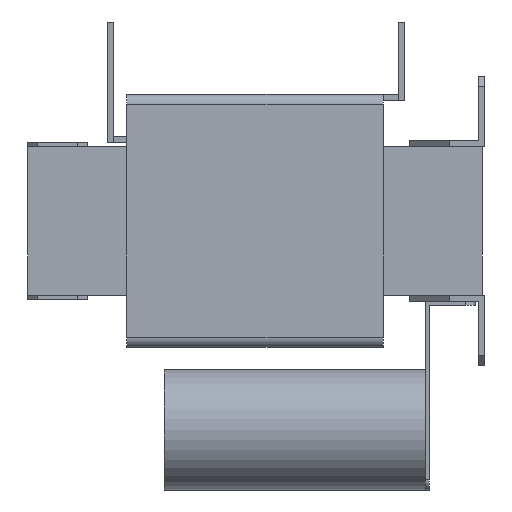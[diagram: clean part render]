
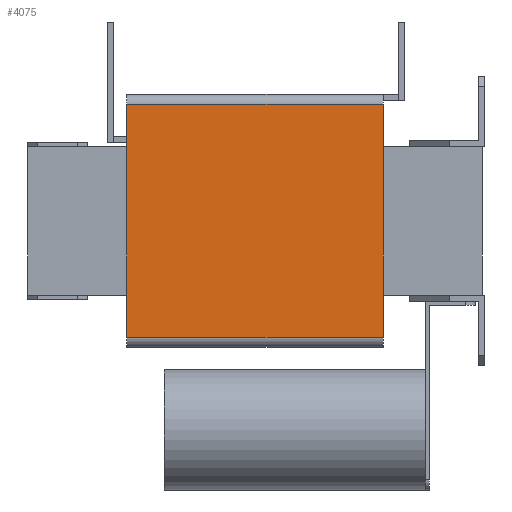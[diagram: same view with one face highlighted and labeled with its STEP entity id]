
A CAD part, left-side view. The second image highlights one B-rep face of the part: STEP entity #4075.
In plain terms, the highlighted planar face has unit normal (-1, 0, 0).
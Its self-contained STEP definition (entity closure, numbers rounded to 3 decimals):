
#359=FACE_OUTER_BOUND('',#611,.T.);
#611=EDGE_LOOP('',(#3135,#3136,#3137,#3138));
#957=LINE('',#6208,#1419);
#962=LINE('',#6227,#1424);
#966=LINE('',#6241,#1428);
#969=LINE('',#6247,#1431);
#1419=VECTOR('',#5042,10.);
#1424=VECTOR('',#5059,10.);
#1428=VECTOR('',#5071,10.);
#1431=VECTOR('',#5080,10.);
#1857=VERTEX_POINT('',#6206);
#1858=VERTEX_POINT('',#6207);
#1866=VERTEX_POINT('',#6225);
#1872=VERTEX_POINT('',#6239);
#2309=EDGE_CURVE('',#1857,#1858,#957,.T.);
#2319=EDGE_CURVE('',#1866,#1857,#962,.T.);
#2326=EDGE_CURVE('',#1866,#1872,#966,.T.);
#2329=EDGE_CURVE('',#1858,#1872,#969,.T.);
#3135=ORIENTED_EDGE('',*,*,#2319,.F.);
#3136=ORIENTED_EDGE('',*,*,#2326,.T.);
#3137=ORIENTED_EDGE('',*,*,#2329,.F.);
#3138=ORIENTED_EDGE('',*,*,#2309,.F.);
#3865=PLANE('',#4412);
#4075=ADVANCED_FACE('',(#359),#3865,.T.);
#4412=AXIS2_PLACEMENT_3D('',#6253,#5088,#5089);
#5042=DIRECTION('',(0.,0.,1.));
#5059=DIRECTION('',(0.,1.,0.));
#5071=DIRECTION('',(0.,0.,1.));
#5080=DIRECTION('',(0.,-1.,0.));
#5088=DIRECTION('center_axis',(-1.,0.,0.));
#5089=DIRECTION('ref_axis',(0.,0.,1.));
#6206=CARTESIAN_POINT('',(-232.,356.,-116.));
#6207=CARTESIAN_POINT('',(-232.,356.,116.));
#6208=CARTESIAN_POINT('',(-232.,356.,-116.));
#6225=CARTESIAN_POINT('',(-232.,101.,-116.));
#6227=CARTESIAN_POINT('',(-232.,101.,-116.));
#6239=CARTESIAN_POINT('',(-232.,101.,116.));
#6241=CARTESIAN_POINT('',(-232.,101.,-126.));
#6247=CARTESIAN_POINT('',(-232.,101.,116.));
#6253=CARTESIAN_POINT('Origin',(-232.,101.,-126.));
